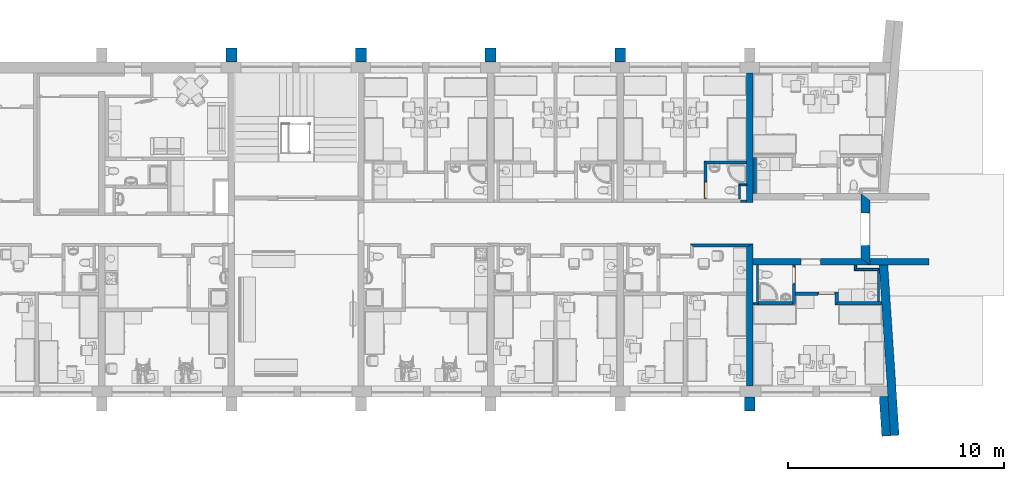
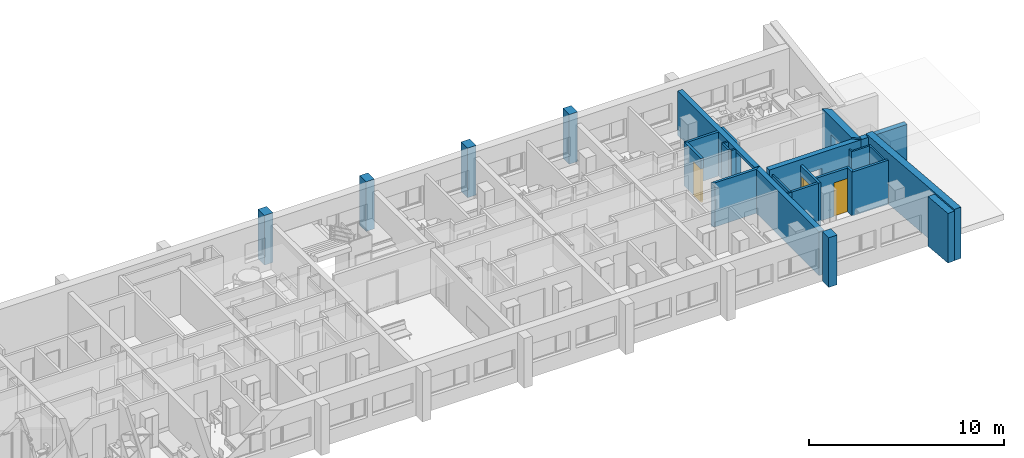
# One storey, part 35 of 172: 29 walls, 3 doors, 6 openings.
"""IFC2X3 building model written with IfcOpenShell, lengths in millimetres."""

from ifc_helpers import new_model, entity, si_unit, converted_unit, money_unit, direction, frame, origin_with_axes, place, context, subcontext, project, spatial, polyline, outline, extrude, faceted_brep, source, transform, mapped, material, material_list, layer, layer_set, layer_usage, type_object, element, fill, save


model = new_model("IFC2X3")

# Units and contexts
model_context = context("Model", 3, precision=1e-05, world=origin_with_axes(), true_north=direction((0.0, 1.0)))
body_context = subcontext(model_context, "Body", "Model", "MODEL_VIEW")
ifc_project = project(units=[si_unit("LENGTHUNIT", "METRE", prefix="MILLI"), si_unit("AREAUNIT", "SQUARE_METRE"), si_unit("VOLUMEUNIT", "CUBIC_METRE"), converted_unit("PLANEANGLEUNIT", "DEGREE", entity("IfcPlaneAngleMeasure", 0.0174532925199), si_unit("PLANEANGLEUNIT", "RADIAN"), dimensions=[0, 0, 0, 0, 0, 0, 0]), si_unit("SOLIDANGLEUNIT", "STERADIAN"), money_unit("USD"), converted_unit("TIMEUNIT", "Year", entity("IfcTimeMeasure", 31556926.0), si_unit("TIMEUNIT", "SECOND"), dimensions=[0, 0, 0, 0, 0, 0, 0]), si_unit("MASSUNIT", "GRAM"), si_unit("THERMODYNAMICTEMPERATUREUNIT", "DEGREE_CELSIUS"), si_unit("LUMINOUSINTENSITYUNIT", "LUMEN")], contexts=[model_context])

# Site, building, storey
site_placement = place(None, origin_with_axes())
site = spatial("IfcSite", under=ifc_project, at=site_placement, Name="Site", CompositionType="ELEMENT")
building_placement = place(site_placement, origin_with_axes())
building = spatial("IfcBuilding", under=site, at=building_placement, Name="Building", CompositionType="ELEMENT")
storey_placement = place(building_placement, frame((0.0, 0.0, 3200.0), z_axis=(0.0, 0.0, 1.0), x_axis=(1.0, 0.0, 0.0)))
storey = spatial("IfcBuildingStorey", under=building, at=storey_placement, Name="3KORRUS", CompositionType="ELEMENT", Elevation=3200.0)

# Walls
ifc_material_1 = material(Name="Olemasolevad seinad tellis, uus viimistlus")
ifc_layer_1 = layer(ifc_material_1, 400.0, ventilated="UNKNOWN")
ifc_layer_set_1 = layer_set([ifc_layer_1], Name="Olemasolevad seinad tellis, uus viimistlus 400")
ifc_layer_usage_1 = layer_usage(ifc_layer_set_1, "AXIS2", "POSITIVE", 0.0)
wall_type_1 = type_object("IfcWallType", Name="Olemasolevad seinad tellis, uus viimistlus 400", PredefinedType="NOTDEFINED")
wall_1_placement = place(storey_placement, frame((17849.9226967, -20139.2398994, 0.0), z_axis=(0.0, 0.0, 1.0), x_axis=(0.0663534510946, -0.997796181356, 0.0)))
element("IfcWallStandardCase", 1, at=wall_1_placement, inside=storey, type_object=wall_type_1, material=ifc_layer_usage_1, Name="VS1", ObjectType="VS1", context=body_context, shape_type="SweptSolid", body=[
    extrude(outline(polyline([(0.0, 0.0), (1833.833538, 0.0), (1833.833538, 400.0), (0.0, 400.0), (0.0, 0.0)])), origin_with_axes(), (0.0, 0.0, 1.0), 3100.0),
])
ifc_layer_usage_2 = layer_usage(ifc_layer_set_1, "AXIS2", "POSITIVE", -400.0)
wall_2_placement = place(storey_placement, frame((18229.2485928, -13787.3375674, 0.0), z_axis=(0.0, 0.0, 1.0), x_axis=(0.0663534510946, -0.997796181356, 0.0)))
element("IfcWallStandardCase", 2, at=wall_2_placement, inside=storey, type_object=wall_type_1, material=ifc_layer_usage_2, Name="VS1", ObjectType="VS1", context=body_context, shape_type="SweptSolid", body=[
    extrude(outline(polyline([(0.0, -400.0), (8146.79169702, -400.0), (8146.79169702, 0.0), (0.0, 0.0), (0.0, -400.0)])), origin_with_axes(), (0.0, 0.0, 1.0), 3200.0),
])
ifc_layer_2 = layer(ifc_material_1, 500.0, ventilated="UNKNOWN")
ifc_layer_set_2 = layer_set([ifc_layer_2], Name="Olemasolevad seinad tellis, uus viimistlus 500")
ifc_layer_usage_3 = layer_usage(ifc_layer_set_2, "AXIS2", "POSITIVE", -100.0)
wall_type_2 = type_object("IfcWallType", Name="Olemasolevad seinad tellis, uus viimistlus 500", PredefinedType="NOTDEFINED")
wall_3_placement = place(storey_placement, frame((6009.70329669, -4639.6041088, 0.0), z_axis=(0.0, 0.0, 1.0), x_axis=(0.0, 1.0, 0.0)))
element("IfcWallStandardCase", 3, at=wall_3_placement, inside=storey, type_object=wall_type_2, material=ifc_layer_usage_3, Name="VS1", ObjectType="VS1", context=body_context, shape_type="SweptSolid", body=[
    extrude(outline(polyline([(0.0, -100.0), (657.402041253, -100.0), (657.402041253, 400.0), (0.0, 400.0), (0.0, -100.0)])), origin_with_axes(), (0.0, 0.0, 1.0), 3100.0),
])
ifc_layer_usage_4 = layer_usage(ifc_layer_set_2, "AXIS2", "POSITIVE", -100.0)
wall_4_placement = place(storey_placement, frame((-11990.2967033, -4639.6041088, 0.0), z_axis=(0.0, 0.0, 1.0), x_axis=(0.0, 1.0, 0.0)))
element("IfcWallStandardCase", 4, at=wall_4_placement, inside=storey, type_object=wall_type_2, material=ifc_layer_usage_4, Name="VS1", ObjectType="VS1", context=body_context, shape_type="SweptSolid", body=[
    extrude(outline(polyline([(0.0, -100.0), (657.402041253, -100.0), (657.402041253, 400.0), (0.0, 400.0), (0.0, -100.0)])), origin_with_axes(), (0.0, 0.0, 1.0), 3100.0),
])
ifc_layer_usage_5 = layer_usage(ifc_layer_set_2, "AXIS2", "POSITIVE", -100.0)
wall_5_placement = place(storey_placement, frame((9.70329668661, -4639.6041088, 0.0), z_axis=(0.0, 0.0, 1.0), x_axis=(0.0, 1.0, 0.0)))
element("IfcWallStandardCase", 5, at=wall_5_placement, inside=storey, type_object=wall_type_2, material=ifc_layer_usage_5, Name="VS1", ObjectType="VS1", context=body_context, shape_type="SweptSolid", body=[
    extrude(outline(polyline([(0.0, -100.0), (657.402041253, -100.0), (657.402041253, 400.0), (0.0, 400.0), (0.0, -100.0)])), origin_with_axes(), (0.0, 0.0, 1.0), 3100.0),
])
ifc_layer_usage_6 = layer_usage(ifc_layer_set_2, "AXIS2", "POSITIVE", -100.0)
wall_6_placement = place(storey_placement, frame((-5990.29670331, -4639.6041088, 0.0), z_axis=(0.0, 0.0, 1.0), x_axis=(0.0, 1.0, 0.0)))
element("IfcWallStandardCase", 6, at=wall_6_placement, inside=storey, type_object=wall_type_2, material=ifc_layer_usage_6, Name="VS1", ObjectType="VS1", context=body_context, shape_type="SweptSolid", body=[
    extrude(outline(polyline([(0.0, -100.0), (657.402041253, -100.0), (657.402041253, 400.0), (0.0, 400.0), (0.0, -100.0)])), origin_with_axes(), (0.0, 0.0, 1.0), 3100.0),
])
ifc_layer_usage_7 = layer_usage(ifc_layer_set_2, "AXIS2", "POSITIVE", -100.0)
wall_7_placement = place(storey_placement, frame((12009.7032967, -20796.6419407, 0.0), z_axis=(0.0, 0.0, 1.0), x_axis=(0.0, 1.0, 0.0)))
element("IfcWallStandardCase", 7, at=wall_7_placement, inside=storey, type_object=wall_type_2, material=ifc_layer_usage_7, Name="VS1", ObjectType="VS1", context=body_context, shape_type="SweptSolid", body=[
    extrude(outline(polyline([(0.0, -100.0), (657.4020413, -100.0), (657.4020413, 400.0), (0.0, 400.0), (0.0, -100.0)])), origin_with_axes(), (0.0, 0.0, 1.0), 3100.0),
])
ifc_material_2 = material(Name="UmbKipsplaat")
ifc_layer_3 = layer(ifc_material_2, 13.0, ventilated="UNKNOWN")
ifc_layer_4 = layer(ifc_material_2, 13.0, ventilated="UNKNOWN")
ifc_material_3 = material(Name="SOOJUSTUS MINERAALVILL")
ifc_layer_5 = layer(ifc_material_3, 98.0, ventilated="UNKNOWN")
ifc_layer_6 = layer(ifc_material_2, 13.0, ventilated="UNKNOWN")
ifc_layer_7 = layer(ifc_material_2, 13.0, ventilated="UNKNOWN")
ifc_layer_set_3 = layer_set([ifc_layer_3, ifc_layer_4, ifc_layer_5, ifc_layer_6, ifc_layer_7], Name="kipssein150")
ifc_layer_usage_8 = layer_usage(ifc_layer_set_3, "AXIS2", "POSITIVE", -150.0)
wall_type_3 = type_object("IfcWallType", Name="kipssein150 150", PredefinedType="NOTDEFINED")
wall_8_placement = place(storey_placement, frame((9259.55735712, -13063.2398994, 0.0), z_axis=(0.0, 0.0, 1.0), x_axis=(1.0, 0.0, 0.0)))
element("IfcWallStandardCase", 8, at=wall_8_placement, inside=storey, type_object=wall_type_3, material=ifc_layer_usage_8, Name="SS1", ObjectType="SS1", context=body_context, shape_type="SweptSolid", body=[
    extrude(outline(polyline([(0.0, -150.0), (2450.14593958, -150.0), (2750.14593958, 0.0), (-150.0, 0.0), (0.0, -150.0)])), origin_with_axes(), (0.0, 0.0, 1.0), 2750.0),
])

# Wall, opening, door
ifc_layer_usage_9 = layer_usage(ifc_layer_set_3, "AXIS2", "POSITIVE", 0.0)
wall_9_placement = place(storey_placement, frame((9734.70329669, -9367.37850445, 0.0), z_axis=(0.0, 0.0, 1.0), x_axis=(0.0, -1.0, 0.0)))
wall_9 = element("IfcWallStandardCase", 9, at=wall_9_placement, inside=storey, type_object=wall_type_3, material=ifc_layer_usage_9, Name="SS1", ObjectType="SS1", context=body_context, shape_type="SweptSolid", body=[
    extrude(outline(polyline([(-150.0, 0.0), (1619.22560435, 0.0), (1619.22560435, 150.0), (0.0, 150.0), (-150.0, 0.0)])), origin_with_axes(), (0.0, 0.0, 1.0), 2750.0),
])
opening_1_placement = place(wall_9_placement, frame((1219.22560435, 0.0, 0.0), z_axis=(0.0, 0.0, 1.0), x_axis=(1.0, 0.0, 0.0)))
opening_1 = element("IfcOpeningElement", 10, at=opening_1_placement, cuts=wall_9, Name="SU3-3", context=body_context, shape_type="SweptSolid", body=[
    extrude(outline(polyline([(-400.0, -2100.0), (400.0, -2100.0), (400.0, 0.0), (-400.0, 0.0), (-400.0, -2100.0)])), frame((0.0, 150.0, 0.0), z_axis=(0.0, 1.0, 0.0), x_axis=(1.0, 0.0, 0.0)), (0.0, 0.0, -1.0), 450.0),
])
ifc_material_4 = material(Name="Background")
ifc_material_list = material_list([ifc_material_4])
door_style_1 = type_object("IfcDoorStyle", Name="Door 19", ConstructionType="NOTDEFINED", OperationType="SINGLE_SWING_LEFT", ParameterTakesPrecedence=False, Sizeable=False)
shared_shape_1 = source(origin_with_axes(), body_context, "Body", "Brep", [
    faceted_brep([(360.0, -40.0, 0.0), (360.0, -115.0, 0.0), (360.0, -115.0, 2060.0), (360.0, -40.0, 2060.0), (372.0, -40.0, 0.0), (372.0, 0.0, 0.0), (400.0, 0.0, 0.0), (400.0, -115.0, 0.0), (400.0, -115.0, 2060.0), (372.0, -40.0, 2060.0), (400.0, 0.0, 2060.0), (372.0, 0.0, 2060.0)], [[[0, 1, 2, 3]], [[4, 5, 6, 7, 1, 0]], [[2, 1, 7, 8]], [[9, 3, 2, 8, 10, 11]], [[9, 4, 0, 3]], [[11, 5, 4, 9]], [[11, 10, 6, 5]], [[7, 6, 10, 8]]]),
    faceted_brep([(-372.0, -40.0, 2060.0), (-372.0, 0.0, 2060.0), (-400.0, 0.0, 2060.0), (-400.0, -115.0, 2060.0), (-360.0, -115.0, 2060.0), (-360.0, -40.0, 2060.0), (-372.0, -40.0, 0.0), (-372.0, 0.0, 0.0), (-400.0, 0.0, 0.0), (-400.0, -115.0, 0.0), (-360.0, -115.0, 0.0), (-360.0, -40.0, 0.0)], [[[0, 1, 2, 3, 4, 5]], [[0, 6, 7, 1]], [[7, 8, 2, 1]], [[3, 2, 8, 9]], [[4, 3, 9, 10]], [[5, 4, 10, 11]], [[5, 11, 6, 0]], [[6, 11, 10, 9, 8, 7]]]),
    faceted_brep([(372.0, 0.0, 2072.0), (-372.0, 0.0, 2072.0), (-372.0, 0.0, 2060.0), (-400.0, 0.0, 2060.0), (-400.0, 0.0, 2100.0), (400.0, 0.0, 2100.0), (400.0, 0.0, 2060.0), (372.0, 0.0, 2060.0), (372.0, -40.0, 2072.0), (-372.0, -40.0, 2072.0), (-372.0, -40.0, 2060.0), (-360.0, -40.0, 2060.0), (-360.0, -115.0, 2060.0), (-400.0, -115.0, 2060.0), (-400.0, -115.0, 2100.0), (400.0, -115.0, 2100.0), (400.0, -115.0, 2060.0), (372.0, -40.0, 2060.0), (360.0, -115.0, 2060.0), (360.0, -40.0, 2060.0)], [[[0, 1, 2, 3, 4, 5, 6, 7]], [[0, 8, 9, 1]], [[1, 9, 10, 2]], [[10, 11, 12, 13, 3, 2]], [[14, 4, 3, 13]], [[15, 5, 4, 14]], [[16, 6, 5, 15]], [[17, 7, 6, 16, 18, 19]], [[7, 17, 8, 0]], [[10, 9, 8, 17, 19, 11]], [[19, 18, 12, 11]], [[13, 12, 18, 16, 15, 14]]]),
    faceted_brep([(-372.0, 0.0, 0.0), (372.0, 0.0, 0.0), (372.0, -40.0, 0.0), (-372.0, -40.0, 0.0), (-372.0, 0.0, 2072.0), (372.0, 0.0, 2072.0), (372.0, -40.0, 2072.0), (-372.0, -40.0, 2072.0)], [[[0, 1, 2, 3]], [[0, 4, 5, 1]], [[1, 5, 6, 2]], [[3, 2, 6, 7]], [[4, 0, 3, 7]], [[5, 4, 7, 6]]]),
])
door_1_placement = place(opening_1_placement, frame((400.0, 0.0, 0.0), z_axis=(0.0, 0.0, 1.0), x_axis=(-1.0, 0.0, 0.0)))
door_1 = element("IfcDoor", 11, at=door_1_placement, inside=storey, type_object=door_style_1, material=ifc_material_list, Name="SU3-3", ObjectType="WC-uks", OverallHeight=2100.0, OverallWidth=800.0, context=body_context, shape_type="MappedRepresentation", body=[
    mapped(shared_shape_1, transform((400.0, 0.0, 0.0))),
])
fill(opening_1, door_1)

# Wall
ifc_layer_usage_10 = layer_usage(ifc_layer_set_3, "AXIS2", "POSITIVE", 0.0)
wall_10_placement = place(storey_placement, frame((9734.70329669, -9367.37850445, 0.0), z_axis=(0.0, 0.0, 1.0), x_axis=(1.0, 0.0, 0.0)))
element("IfcWallStandardCase", 12, at=wall_10_placement, inside=storey, type_object=wall_type_3, material=ifc_layer_usage_10, Name="SS1", ObjectType="SS1", context=body_context, shape_type="SweptSolid", body=[
    extrude(outline(polyline([(150.0, 0.0), (1975.0, 0.0), (1975.0, 150.0), (0.0, 150.0), (150.0, 0.0)])), origin_with_axes(), (0.0, 0.0, 1.0), 2750.0),
])

# Wall, opening, door
ifc_layer_usage_11 = layer_usage(ifc_layer_set_3, "AXIS2", "POSITIVE", 0.0)
wall_11_placement = place(storey_placement, frame((13984.2564771, -15877.8948034, 0.0), z_axis=(0.0, 0.0, 1.0), x_axis=(0.0, 1.0, 0.0)))
wall_11 = element("IfcWallStandardCase", 13, at=wall_11_placement, inside=storey, type_object=wall_type_3, material=ifc_layer_usage_11, Name="SS1", ObjectType="SS1", context=body_context, shape_type="SweptSolid", body=[
    extrude(outline(polyline([(0.0, 0.0), (1838.65490396, 0.0), (1838.65490396, 150.0), (0.0, 150.0), (0.0, 0.0)])), origin_with_axes(), (0.0, 0.0, 1.0), 2750.0),
])
opening_2_placement = place(wall_11_placement, frame((1359.09412716, 0.0, 0.0), z_axis=(0.0, 0.0, 1.0), x_axis=(1.0, 0.0, 0.0)))
opening_2 = element("IfcOpeningElement", 14, at=opening_2_placement, cuts=wall_11, Name="SU3-3", context=body_context, shape_type="SweptSolid", body=[
    extrude(outline(polyline([(-400.0, -2100.0), (400.0, -2100.0), (400.0, 0.0), (-400.0, 0.0), (-400.0, -2100.0)])), frame((0.0, 150.0, 0.0), z_axis=(0.0, 1.0, 0.0), x_axis=(1.0, 0.0, 0.0)), (0.0, 0.0, -1.0), 450.0),
])
door_2_placement = place(opening_2_placement, frame((400.0, 0.0, 0.0), z_axis=(0.0, 0.0, 1.0), x_axis=(-1.0, 0.0, 0.0)))
door_2 = element("IfcDoor", 15, at=door_2_placement, inside=storey, type_object=door_style_1, material=ifc_material_list, Name="SU3-3", ObjectType="WC-uks", OverallHeight=2100.0, OverallWidth=800.0, context=body_context, shape_type="MappedRepresentation", body=[
    mapped(shared_shape_1, transform((400.0, 0.0, 0.0))),
])
fill(opening_2, door_2)

ifc_layer_usage_12 = layer_usage(ifc_layer_set_3, "AXIS2", "POSITIVE", -150.0)
wall_12_placement = place(storey_placement, frame((13984.2564771, -15298.5106464, 0.0), z_axis=(0.0, 0.0, 1.0), x_axis=(1.0, 0.0, 0.0)))
wall_12 = element("IfcWallStandardCase", 16, at=wall_12_placement, inside=storey, type_object=wall_type_3, material=ifc_layer_usage_12, Name="SS1", ObjectType="SS1", context=body_context, shape_type="SweptSolid", body=[
    extrude(outline(polyline([(0.0, -150.0), (1827.29152874, -150.0), (1827.29152874, 0.0), (0.0, 0.0), (0.0, -150.0)])), origin_with_axes(), (0.0, 0.0, 1.0), 2750.0),
])
opening_3_placement = place(wall_12_placement, frame((1427.24467096, 0.0, 0.0), z_axis=(0.0, 0.0, 1.0), x_axis=(1.0, 0.0, 0.0)))
opening_3 = element("IfcOpeningElement", 17, at=opening_3_placement, cuts=wall_12, Name="SU3-4", context=body_context, shape_type="SweptSolid", body=[
    extrude(outline(polyline([(-400.0, 0.0), (400.0, 0.0), (400.0, 2100.0), (-400.0, 2100.0), (-400.0, 0.0)])), frame((0.0, -150.0, 0.0), z_axis=(0.0, 1.0, 0.0), x_axis=(-1.0, 0.0, 0.0)), (0.0, 0.0, 1.0), 450.0),
])
door_style_2 = type_object("IfcDoorStyle", Name="Door 19", ConstructionType="NOTDEFINED", OperationType="SINGLE_SWING_RIGHT", ParameterTakesPrecedence=False, Sizeable=False)
shared_shape_2 = source(origin_with_axes(), body_context, "Body", "Brep", [
    faceted_brep([(-360.0, -75.0, 0.0), (-360.0, -75.0, 2060.0), (-360.0, -150.0, 2060.0), (-360.0, -150.0, 0.0), (-372.0, -75.0, 2060.0), (-372.0, -75.0, 0.0), (-372.0, -35.0, 2060.0), (-400.0, -35.0, 2060.0), (-400.0, -150.0, 2060.0), (-400.0, -150.0, 0.0), (-400.0, -35.0, 0.0), (-372.0, -35.0, 0.0)], [[[0, 1, 2, 3]], [[4, 1, 0, 5]], [[4, 6, 7, 8, 2, 1]], [[2, 8, 9, 3]], [[5, 0, 3, 9, 10, 11]], [[6, 4, 5, 11]], [[6, 11, 10, 7]], [[9, 8, 7, 10]]]),
    faceted_brep([(372.0, -75.0, 2060.0), (360.0, -75.0, 2060.0), (360.0, -150.0, 2060.0), (400.0, -150.0, 2060.0), (400.0, -35.0, 2060.0), (372.0, -35.0, 2060.0), (372.0, -75.0, 0.0), (360.0, -75.0, 0.0), (360.0, -150.0, 0.0), (400.0, -150.0, 0.0), (400.0, -35.0, 0.0), (372.0, -35.0, 0.0)], [[[0, 1, 2, 3, 4, 5]], [[1, 0, 6, 7]], [[1, 7, 8, 2]], [[2, 8, 9, 3]], [[3, 9, 10, 4]], [[11, 5, 4, 10]], [[0, 5, 11, 6]], [[6, 11, 10, 9, 8, 7]]]),
    faceted_brep([(-372.0, -35.0, 2072.0), (-372.0, -35.0, 2060.0), (-400.0, -35.0, 2060.0), (-400.0, -35.0, 2100.0), (400.0, -35.0, 2100.0), (400.0, -35.0, 2060.0), (372.0, -35.0, 2060.0), (372.0, -35.0, 2072.0), (-372.0, -75.0, 2072.0), (-372.0, -75.0, 2060.0), (-360.0, -75.0, 2060.0), (-360.0, -150.0, 2060.0), (-400.0, -150.0, 2060.0), (-400.0, -150.0, 2100.0), (400.0, -150.0, 2100.0), (400.0, -150.0, 2060.0), (372.0, -75.0, 2060.0), (360.0, -150.0, 2060.0), (360.0, -75.0, 2060.0), (372.0, -75.0, 2072.0)], [[[0, 1, 2, 3, 4, 5, 6, 7]], [[1, 0, 8, 9]], [[9, 10, 11, 12, 2, 1]], [[12, 13, 3, 2]], [[13, 14, 4, 3]], [[14, 15, 5, 4]], [[16, 6, 5, 15, 17, 18]], [[7, 6, 16, 19]], [[0, 7, 19, 8]], [[16, 18, 10, 9, 8, 19]], [[10, 18, 17, 11]], [[15, 14, 13, 12, 11, 17]]]),
    faceted_brep([(372.0, -35.0, 0.0), (372.0, -75.0, 0.0), (-372.0, -75.0, 0.0), (-372.0, -35.0, 0.0), (372.0, -35.0, 2072.0), (372.0, -75.0, 2072.0), (-372.0, -75.0, 2072.0), (-372.0, -35.0, 2072.0)], [[[0, 1, 2, 3]], [[4, 5, 1, 0]], [[1, 5, 6, 2]], [[3, 2, 6, 7]], [[0, 3, 7, 4]], [[7, 6, 5, 4]]]),
])
door_3_placement = place(opening_3_placement, frame((400.0, 0.0, 0.0), z_axis=(0.0, 0.0, 1.0), x_axis=(-1.0, 0.0, 0.0)))
door_3 = element("IfcDoor", 18, at=door_3_placement, inside=storey, type_object=door_style_2, material=ifc_material_list, Name="SU3-4", ObjectType="Toa uks", OverallHeight=2100.0, OverallWidth=800.0, context=body_context, shape_type="MappedRepresentation", body=[
    mapped(shared_shape_2, transform((400.0, 150.0, 0.0))),
])
fill(opening_3, door_3)

# Walls
ifc_layer_usage_13 = layer_usage(ifc_layer_set_3, "AXIS2", "POSITIVE", -150.0)
wall_13_placement = place(storey_placement, frame((15961.5480058, -15738.0262806, 0.0), z_axis=(0.0, 0.0, 1.0), x_axis=(1.0, 0.0, 0.0)))
element("IfcWallStandardCase", 19, at=wall_13_placement, inside=storey, type_object=wall_type_3, material=ifc_layer_usage_13, Name="SS1", ObjectType="SS1", context=body_context, shape_type="SweptSolid", body=[
    extrude(outline(polyline([(-150.0, -150.0), (2006.51292255, -150.0), (1996.53792179, 0.0), (0.0, 0.0), (-150.0, -150.0)])), origin_with_axes(), (0.0, 0.0, 1.0), 2750.0),
])
ifc_layer_usage_14 = layer_usage(ifc_layer_set_3, "AXIS2", "POSITIVE", 0.0)
wall_14_placement = place(storey_placement, frame((15961.5480058, -15738.0262806, 0.0), z_axis=(0.0, 0.0, 1.0), x_axis=(0.0, 1.0, 0.0)))
element("IfcWallStandardCase", 20, at=wall_14_placement, inside=storey, type_object=wall_type_3, material=ifc_layer_usage_14, Name="SS1", ObjectType="SS1", context=body_context, shape_type="SweptSolid", body=[
    extrude(outline(polyline([(0.0, 0.0), (439.515634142, 0.0), (439.515634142, 150.0), (-150.0, 150.0), (0.0, 0.0)])), origin_with_axes(), (0.0, 0.0, 1.0), 2750.0),
])
ifc_layer_usage_15 = layer_usage(ifc_layer_set_3, "AXIS2", "POSITIVE", 0.0)
wall_15_placement = place(storey_placement, frame((13984.2564771, -15739.0262806, 0.0), z_axis=(0.0, 0.0, 1.0), x_axis=(-1.0, 0.0, 0.0)))
element("IfcWallStandardCase", 21, at=wall_15_placement, inside=storey, type_object=wall_type_3, material=ifc_layer_usage_15, Name="SS1", ObjectType="SS1", context=body_context, shape_type="SweptSolid", body=[
    extrude(outline(polyline([(150.0, 0.0), (1724.55318041, 0.0), (1724.55318041, 150.0), (150.0, 150.0), (150.0, 0.0)])), origin_with_axes(), (0.0, 0.0, 1.0), 2750.0),
])
ifc_layer_usage_16 = layer_usage(ifc_layer_set_3, "AXIS2", "POSITIVE", -150.0)
wall_16_placement = place(storey_placement, frame((12159.7032967, -9069.3690093, 0.0), z_axis=(0.0, 0.0, 1.0), x_axis=(0.0, -1.0, 0.0)))
element("IfcWallStandardCase", 22, at=wall_16_placement, inside=storey, type_object=wall_type_3, material=ifc_layer_usage_16, Name="SS1", ObjectType="SS1", context=body_context, shape_type="SweptSolid", body=[
    extrude(outline(polyline([(0.0, -150.0), (1670.2350995, -150.0), (1670.2350995, 0.0), (0.0, 0.0), (0.0, -150.0)])), origin_with_axes(), (0.0, 0.0, 1.0), 2750.0),
])
ifc_material_5 = material(Name="Olemasolevad seinad tellis, uus viimistlus")
ifc_layer_8 = layer(ifc_material_5, 300.0, ventilated="UNKNOWN")
ifc_layer_set_4 = layer_set([ifc_layer_8], Name="Olemasolevad seinad tellis, uus viimistlus  300")
ifc_layer_usage_17 = layer_usage(ifc_layer_set_4, "AXIS2", "POSITIVE", 0.0)
wall_type_4 = type_object("IfcWallType", Name="Olemasolevad seinad tellis, uus viimistlus  300", PredefinedType="NOTDEFINED")
wall_17_placement = place(storey_placement, frame((12009.7032967, -19739.2398994, 0.0), z_axis=(0.0, 0.0, 1.0), x_axis=(0.0, 1.0, 0.0)))
element("IfcWallStandardCase", 23, at=wall_17_placement, inside=storey, type_object=wall_type_4, material=ifc_layer_usage_17, Name="KS1", ObjectType="KS1", context=body_context, shape_type="SweptSolid", body=[
    extrude(outline(polyline([(100.0, 0.0), (6676.0, 0.0), (6526.0, 300.0), (100.0, 300.0), (100.0, 0.0)])), origin_with_axes(), (0.0, 0.0, 1.0), 2750.0),
])

# Wall, opening
ifc_layer_usage_18 = layer_usage(ifc_layer_set_4, "AXIS2", "POSITIVE", 0.0)
wall_18_placement = place(storey_placement, frame((17015.1799697, -13739.2398994, 0.0), z_axis=(0.0, 0.0, 1.0), x_axis=(-1.0, 0.0, 0.0)))
wall_18 = element("IfcWallStandardCase", 24, at=wall_18_placement, inside=storey, type_object=wall_type_4, material=ifc_layer_usage_18, Name="SS2", ObjectType="OLEMASOLEV KANDESEIN", context=body_context, shape_type="SweptSolid", body=[
    extrude(outline(polyline([(0.0, 0.0), (5005.476673, 0.0), (5005.476673, 300.0), (-400.0, 300.0), (0.0, 0.0)])), origin_with_axes(), (0.0, 0.0, 1.0), 3100.0),
])
opening_4_placement = place(wall_18_placement, frame((2339.68172869, 0.0, 0.0), z_axis=(0.0, 0.0, 1.0), x_axis=(1.0, 0.0, 0.0)))
element("IfcOpeningElement", 25, at=opening_4_placement, cuts=wall_18, Name="SU2-5", context=body_context, shape_type="SweptSolid", body=[
    extrude(outline(polyline([(-450.0, -2100.0), (450.0, -2100.0), (450.0, 0.0), (-450.0, 0.0), (-450.0, -2100.0)])), frame((0.0, 300.0, 0.0), z_axis=(0.0, -1.0, 0.0), x_axis=(-1.0, 0.0, 0.0)), (0.0, 0.0, 1.0), 900.0),
])

ifc_layer_usage_19 = layer_usage(ifc_layer_set_4, "AXIS2", "POSITIVE", 0.0)
wall_19_placement = place(storey_placement, frame((12009.7032967, -13039.2398994, 0.0), z_axis=(0.0, 0.0, 1.0), x_axis=(0.0, 1.0, 0.0)))
wall_19 = element("IfcWallStandardCase", 26, at=wall_19_placement, inside=storey, type_object=wall_type_4, material=ifc_layer_usage_19, Name="KS1", ObjectType="KS1", context=body_context, shape_type="SweptSolid", body=[
    extrude(outline(polyline([(0.0, 0.0), (7899.63579061, 0.0), (7899.63579061, 300.0), (0.0, 300.0), (0.0, 0.0)])), origin_with_axes(), (0.0, 0.0, 1.0), 2750.0),
])
opening_5_placement = place(wall_19_placement, frame((939.317895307, 0.0, 0.0), z_axis=(0.0, 0.0, 1.0), x_axis=(1.0, 0.0, 0.0)))
element("IfcOpeningElement", 27, at=opening_5_placement, cuts=wall_19, Name="DOO - 001", context=body_context, shape_type="SweptSolid", body=[
    extrude(outline(polyline([(-963.318, 2550.0), (-963.318, 0.0), (963.318, 0.0), (963.318, 2550.0), (-963.318, 2550.0)])), frame((0.0, 0.0, 0.0), z_axis=(0.0, -1.0, 0.0), x_axis=(1.0, 0.0, 0.0)), (0.0, 0.0, 1.0), 300.0),
    extrude(outline(polyline([(-963.318, 0.0), (-963.318, -2550.0), (963.318, -2550.0), (963.318, 0.0), (-963.318, 0.0)])), frame((0.0, 0.0, 0.0), z_axis=(0.0, 1.0, 0.0), x_axis=(1.0, 0.0, 0.0)), (0.0, 0.0, 1.0), 300.0),
])

# Walls
ifc_layer_usage_20 = layer_usage(ifc_layer_set_4, "AXIS2", "POSITIVE", 0.0)
wall_20_placement = place(storey_placement, frame((20146.0590664, -13739.2398994, 0.0), z_axis=(0.0, 0.0, 1.0), x_axis=(-1.0, 0.0, 0.0)))
element("IfcWallStandardCase", 28, at=wall_20_placement, inside=storey, type_object=wall_type_4, material=ifc_layer_usage_20, Name="VS1", ObjectType="OLEMASOLEVVÄLISSEIN LISASOOJUSTUSEGA", context=body_context, shape_type="SweptSolid", body=[
    extrude(outline(polyline([(0.0, 0.0), (2730.8790967, 0.0), (2730.8790967, 300.0), (0.0, 300.0), (0.0, 0.0)])), origin_with_axes(), (0.0, 0.0, 1.0), 3100.0),
])
ifc_material_6 = material(Name="krohv")
ifc_layer_9 = layer(ifc_material_6, 2.0, ventilated="UNKNOWN")
ifc_layer_10 = layer(ifc_material_6, 10.0, ventilated="UNKNOWN")
ifc_material_7 = material(Name="Kergplokk")
ifc_layer_11 = layer(ifc_material_7, 76.0, ventilated="UNKNOWN")
ifc_layer_12 = layer(ifc_material_6, 10.0, ventilated="UNKNOWN")
ifc_layer_13 = layer(ifc_material_6, 2.0, ventilated="UNKNOWN")
ifc_layer_set_5 = layer_set([ifc_layer_9, ifc_layer_10, ifc_layer_11, ifc_layer_12, ifc_layer_13], Name="Kergplokk Bauroc 100")
ifc_layer_usage_21 = layer_usage(ifc_layer_set_5, "AXIS2", "POSITIVE", 0.0)
wall_type_5 = type_object("IfcWallType", Name="Kergplokk Bauroc 100 100", PredefinedType="NOTDEFINED")
wall_21_placement = place(storey_placement, frame((16701.5970358, -13739.2398994, 0.0), z_axis=(0.0, 0.0, 1.0), x_axis=(0.0, -1.0, 0.0)))
element("IfcWallStandardCase", 29, at=wall_21_placement, inside=storey, type_object=wall_type_5, material=ifc_layer_usage_21, Name="SS2", ObjectType="SAHTISEIN", context=body_context, shape_type="SweptSolid", body=[
    extrude(outline(polyline([(300.0, 0.0), (560.0, 0.0), (460.0, 100.0), (300.0, 100.0), (300.0, 0.0)])), origin_with_axes(), (0.0, 0.0, 1.0), 2750.0),
])
ifc_layer_usage_22 = layer_usage(ifc_layer_set_5, "AXIS2", "POSITIVE", 0.0)
wall_22_placement = place(storey_placement, frame((12159.7032967, -14039.2398994, 0.0), z_axis=(0.0, 0.0, 1.0), x_axis=(0.0, -1.0, 0.0)))
element("IfcWallStandardCase", 30, at=wall_22_placement, inside=storey, type_object=wall_type_5, material=ifc_layer_usage_22, Name="SS2", ObjectType="SAHTISEIN", context=body_context, shape_type="SweptSolid", body=[
    extrude(outline(polyline([(0.0, 0.0), (1749.7863812, 0.0), (1849.7863812, 100.0), (0.0, 100.0), (0.0, 0.0)])), origin_with_axes(), (0.0, 0.0, 1.0), 2750.0),
])
ifc_layer_usage_23 = layer_usage(ifc_layer_set_5, "AXIS2", "POSITIVE", -100.0)
wall_23_placement = place(storey_placement, frame((12009.7032967, -10377.8622383, 0.0), z_axis=(0.0, 0.0, 1.0), x_axis=(-1.0, 0.0, 0.0)))
element("IfcWallStandardCase", 31, at=wall_23_placement, inside=storey, type_object=wall_type_5, material=ifc_layer_usage_23, Name="SS2", ObjectType="SAHTISEIN", context=body_context, shape_type="SweptSolid", body=[
    extrude(outline(polyline([(300.0, -100.0), (672.077062, -100.0), (572.077062, 0.0), (300.0, 0.0), (300.0, -100.0)])), origin_with_axes(), (0.0, 0.0, 1.0), 2750.0),
])
ifc_layer_usage_24 = layer_usage(ifc_layer_set_5, "AXIS2", "POSITIVE", -100.0)
wall_24_placement = place(storey_placement, frame((11709.7032967, -11136.6041088, 0.0), z_axis=(0.0, 0.0, 1.0), x_axis=(-1.0, 0.0, 0.0)))
element("IfcWallStandardCase", 32, at=wall_24_placement, inside=storey, type_object=wall_type_5, material=ifc_layer_usage_24, Name="SS2", ObjectType="SAHTISEIN", context=body_context, shape_type="SweptSolid", body=[
    extrude(outline(polyline([(0.0, -100.0), (272.077061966, -100.0), (272.077061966, 0.0), (0.0, 0.0), (0.0, -100.0)])), origin_with_axes(), (0.0, 0.0, 1.0), 2750.0),
])
ifc_layer_usage_25 = layer_usage(ifc_layer_set_5, "AXIS2", "POSITIVE", 0.0)
wall_25_placement = place(storey_placement, frame((17761.5480058, -14199.2398994, 0.0), z_axis=(0.0, 0.0, 1.0), x_axis=(-1.0, 0.0, 0.0)))
element("IfcWallStandardCase", 33, at=wall_25_placement, inside=storey, type_object=wall_type_5, material=ifc_layer_usage_25, Name="SS2", ObjectType="SAHTISEIN", context=body_context, shape_type="SweptSolid", body=[
    extrude(outline(polyline([(-100.0, 0.0), (959.95097, 0.0), (1059.95097, 100.0), (0.0, 100.0), (-100.0, 0.0)])), origin_with_axes(), (0.0, 0.0, 1.0), 2750.0),
])
ifc_layer_usage_26 = layer_usage(ifc_layer_set_5, "AXIS2", "POSITIVE", 0.0)
wall_26_placement = place(storey_placement, frame((17761.5480058, -14199.2398994, 0.0), z_axis=(0.0, 0.0, 1.0), x_axis=(0.0, -1.0, 0.0)))
element("IfcWallStandardCase", 34, at=wall_26_placement, inside=storey, type_object=wall_type_5, material=ifc_layer_usage_26, Name="SS1", ObjectType="SAHTISEIN", context=body_context, shape_type="SweptSolid", body=[
    extrude(outline(polyline([(100.0, 0.0), (1538.7863812, 0.0), (1538.7863812, 100.0), (0.0, 100.0), (100.0, 0.0)])), origin_with_axes(), (0.0, 0.0, 1.0), 2750.0),
])
ifc_layer_usage_27 = layer_usage(ifc_layer_set_5, "AXIS2", "POSITIVE", 0.0)
wall_27_placement = place(storey_placement, frame((12009.7032967, -15889.0262806, 0.0), z_axis=(0.0, 0.0, 1.0), x_axis=(1.0, 0.0, 0.0)))
element("IfcWallStandardCase", 35, at=wall_27_placement, inside=storey, type_object=wall_type_5, material=ifc_layer_usage_27, Name="SS2", context=body_context, shape_type="SweptSolid", body=[
    extrude(outline(polyline([(0.0, 0.0), (250.0, 0.0), (150.0, 100.0), (0.0, 100.0), (0.0, 0.0)])), origin_with_axes(), (0.0, 0.0, 1.0), 2750.0),
])
ifc_layer_usage_28 = layer_usage(ifc_layer_set_5, "AXIS2", "POSITIVE", -100.0)
wall_28_placement = place(storey_placement, frame((11437.6262347, -10377.8622383, 0.0), z_axis=(0.0, 0.0, 1.0), x_axis=(0.0, -1.0, 0.0)))
element("IfcWallStandardCase", 36, at=wall_28_placement, inside=storey, type_object=wall_type_5, material=ifc_layer_usage_28, Name="SS2", ObjectType="SAHTISEIN", context=body_context, shape_type="SweptSolid", body=[
    extrude(outline(polyline([(-100.0, -100.0), (608.7418705, -100.0), (608.7418705, 0.0), (0.0, 0.0), (-100.0, -100.0)])), origin_with_axes(), (0.0, 0.0, 1.0), 2750.0),
])

# Wall, opening
ifc_layer_14 = layer(ifc_material_5, 400.0, ventilated="UNKNOWN")
ifc_layer_set_6 = layer_set([ifc_layer_14], Name="Olemasolevad seinad tellis, uus viimistlus  400")
ifc_layer_usage_29 = layer_usage(ifc_layer_set_6, "AXIS2", "POSITIVE", 0.0)
wall_type_6 = type_object("IfcWallType", Name="Olemasolevad seinad tellis, uus viimistlus  400", PredefinedType="NOTDEFINED")
wall_29_placement = place(storey_placement, frame((17015.1799697, -11039.6041088, 0.0), z_axis=(0.0, 0.0, 1.0), x_axis=(0.0, -1.0, 0.0)))
wall_29 = element("IfcWallStandardCase", 37, at=wall_29_placement, inside=storey, type_object=wall_type_6, material=ifc_layer_usage_29, Name="VS1", ObjectType="OLEMASOLEVVÄLISSEIN LISASOOJUSTUSEGA", context=body_context, shape_type="SweptSolid", body=[
    extrude(outline(polyline([(-300.0, 0.0), (2699.6357906, 0.0), (2999.6357906, 400.0), (0.0, 400.0), (-300.0, 0.0)])), origin_with_axes(), (0.0, 0.0, 1.0), 3200.0),
])
opening_6_placement = place(wall_29_placement, frame((1349.63579061, 0.0, 0.0), z_axis=(0.0, 0.0, 1.0), x_axis=(1.0, 0.0, 0.0)))
element("IfcOpeningElement", 38, at=opening_6_placement, cuts=wall_29, Name="ava", context=body_context, shape_type="SweptSolid", body=[
    extrude(outline(polyline([(750.0, -2100.0), (750.0, 0.0), (-750.0, 0.0), (-750.0, -2100.0), (750.0, -2100.0)])), frame((0.0, -400.0, 0.0), z_axis=(0.0, 1.0, 0.0), x_axis=(1.0, 0.0, 0.0)), (0.0, 0.0, 1.0), 1200.0),
])

save(model, "model.ifc")
